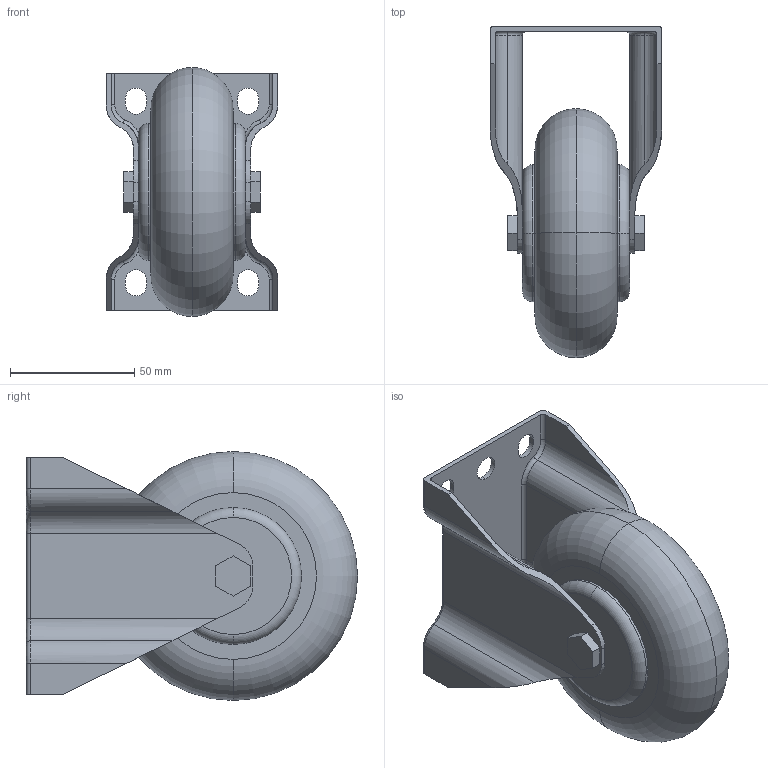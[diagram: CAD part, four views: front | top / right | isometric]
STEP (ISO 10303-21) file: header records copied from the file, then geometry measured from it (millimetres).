
FILE_DESCRIPTION (( 'STEP AP214' ), '1' );
FILE_NAME ('015.400.001.STEP', '2018-01-12T09:11:06', ( '' ), ( '' ), 'SwSTEP 2.0', 'SolidWorks 2016', '' );
FILE_SCHEMA (( 'AUTOMOTIVE_DESIGN' ));
Length unit declared in the file: millimetre
Products named in the file (1): 015.400.001
Bounding box: 69 x 133 x 100 mm (x, y, z)
Volume: 284734.1 mm3; surface area: 69134.9 mm2
Topology: 7 solids, 7 shells, 136 faces, 336 edges, 214 vertices
Faces by surface type: plane 60, cylinder 52, torus 24
Entity records: 4384 total; most frequent: CARTESIAN_POINT 735, DIRECTION 724, ORIENTED_EDGE 672, EDGE_CURVE 336, AXIS2_PLACEMENT_3D 267, VERTEX_POINT 214, LINE 190, VECTOR 190
